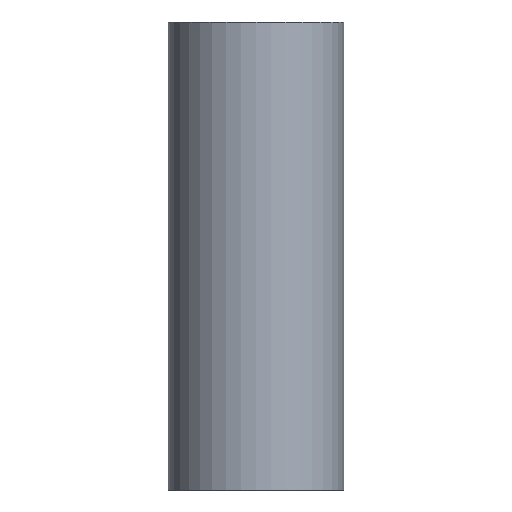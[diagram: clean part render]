
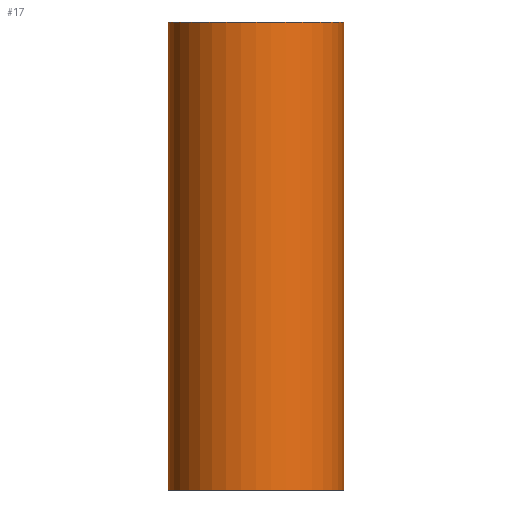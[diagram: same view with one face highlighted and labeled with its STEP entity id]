
A CAD part, front view. The second image highlights one B-rep face of the part: STEP entity #17.
In plain terms, the highlighted cylindrical face has radius 75 mm (diameter 150 mm), a full revolution.
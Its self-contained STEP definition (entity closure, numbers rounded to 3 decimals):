
#17 = ADVANCED_FACE('',(#18),#32,.T.);
#18 = FACE_BOUND('',#19,.F.);
#19 = EDGE_LOOP('',(#20,#50,#77,#78));
#20 = ORIENTED_EDGE('',*,*,#21,.T.);
#21 = EDGE_CURVE('',#22,#24,#26,.T.);
#22 = VERTEX_POINT('',#23);
#23 = CARTESIAN_POINT('',(75.,0.,0.));
#24 = VERTEX_POINT('',#25);
#25 = CARTESIAN_POINT('',(75.,0.,400.));
#26 = SEAM_CURVE('',#27,(#31,#43),.PCURVE_S1.);
#27 = LINE('',#28,#29);
#28 = CARTESIAN_POINT('',(75.,0.,0.));
#29 = VECTOR('',#30,1.);
#30 = DIRECTION('',(0.,0.,1.));
#31 = PCURVE('',#32,#37);
#32 = CYLINDRICAL_SURFACE('',#33,75.);
#33 = AXIS2_PLACEMENT_3D('',#34,#35,#36);
#34 = CARTESIAN_POINT('',(0.,0.,0.));
#35 = DIRECTION('',(-0.,-0.,-1.));
#36 = DIRECTION('',(1.,0.,-0.));
#37 = DEFINITIONAL_REPRESENTATION('',(#38),#42);
#38 = LINE('',#39,#40);
#39 = CARTESIAN_POINT('',(-0.,0.));
#40 = VECTOR('',#41,1.);
#41 = DIRECTION('',(-0.,-1.));
#42 = ( GEOMETRIC_REPRESENTATION_CONTEXT(2) 
PARAMETRIC_REPRESENTATION_CONTEXT() REPRESENTATION_CONTEXT('2D SPACE',''
  ) );
#43 = PCURVE('',#32,#44);
#44 = DEFINITIONAL_REPRESENTATION('',(#45),#49);
#45 = LINE('',#46,#47);
#46 = CARTESIAN_POINT('',(-6.283,0.));
#47 = VECTOR('',#48,1.);
#48 = DIRECTION('',(-0.,-1.));
#49 = ( GEOMETRIC_REPRESENTATION_CONTEXT(2) 
PARAMETRIC_REPRESENTATION_CONTEXT() REPRESENTATION_CONTEXT('2D SPACE',''
  ) );
#50 = ORIENTED_EDGE('',*,*,#51,.T.);
#51 = EDGE_CURVE('',#24,#24,#52,.T.);
#52 = SURFACE_CURVE('',#53,(#58,#65),.PCURVE_S1.);
#53 = CIRCLE('',#54,75.);
#54 = AXIS2_PLACEMENT_3D('',#55,#56,#57);
#55 = CARTESIAN_POINT('',(0.,0.,400.));
#56 = DIRECTION('',(0.,0.,1.));
#57 = DIRECTION('',(1.,0.,-0.));
#58 = PCURVE('',#32,#59);
#59 = DEFINITIONAL_REPRESENTATION('',(#60),#64);
#60 = LINE('',#61,#62);
#61 = CARTESIAN_POINT('',(-0.,-400.));
#62 = VECTOR('',#63,1.);
#63 = DIRECTION('',(-1.,0.));
#64 = ( GEOMETRIC_REPRESENTATION_CONTEXT(2) 
PARAMETRIC_REPRESENTATION_CONTEXT() REPRESENTATION_CONTEXT('2D SPACE',''
  ) );
#65 = PCURVE('',#66,#71);
#66 = PLANE('',#67);
#67 = AXIS2_PLACEMENT_3D('',#68,#69,#70);
#68 = CARTESIAN_POINT('',(0.,0.,400.));
#69 = DIRECTION('',(0.,0.,1.));
#70 = DIRECTION('',(1.,0.,-0.));
#71 = DEFINITIONAL_REPRESENTATION('',(#72),#76);
#72 = CIRCLE('',#73,75.);
#73 = AXIS2_PLACEMENT_2D('',#74,#75);
#74 = CARTESIAN_POINT('',(0.,0.));
#75 = DIRECTION('',(1.,0.));
#76 = ( GEOMETRIC_REPRESENTATION_CONTEXT(2) 
PARAMETRIC_REPRESENTATION_CONTEXT() REPRESENTATION_CONTEXT('2D SPACE',''
  ) );
#77 = ORIENTED_EDGE('',*,*,#21,.F.);
#78 = ORIENTED_EDGE('',*,*,#79,.F.);
#79 = EDGE_CURVE('',#22,#22,#80,.T.);
#80 = SURFACE_CURVE('',#81,(#86,#93),.PCURVE_S1.);
#81 = CIRCLE('',#82,75.);
#82 = AXIS2_PLACEMENT_3D('',#83,#84,#85);
#83 = CARTESIAN_POINT('',(0.,0.,0.));
#84 = DIRECTION('',(0.,0.,1.));
#85 = DIRECTION('',(1.,0.,-0.));
#86 = PCURVE('',#32,#87);
#87 = DEFINITIONAL_REPRESENTATION('',(#88),#92);
#88 = LINE('',#89,#90);
#89 = CARTESIAN_POINT('',(-0.,0.));
#90 = VECTOR('',#91,1.);
#91 = DIRECTION('',(-1.,0.));
#92 = ( GEOMETRIC_REPRESENTATION_CONTEXT(2) 
PARAMETRIC_REPRESENTATION_CONTEXT() REPRESENTATION_CONTEXT('2D SPACE',''
  ) );
#93 = PCURVE('',#94,#99);
#94 = PLANE('',#95);
#95 = AXIS2_PLACEMENT_3D('',#96,#97,#98);
#96 = CARTESIAN_POINT('',(0.,0.,0.));
#97 = DIRECTION('',(0.,0.,1.));
#98 = DIRECTION('',(1.,0.,-0.));
#99 = DEFINITIONAL_REPRESENTATION('',(#100),#104);
#100 = CIRCLE('',#101,75.);
#101 = AXIS2_PLACEMENT_2D('',#102,#103);
#102 = CARTESIAN_POINT('',(0.,0.));
#103 = DIRECTION('',(1.,0.));
#104 = ( GEOMETRIC_REPRESENTATION_CONTEXT(2) 
PARAMETRIC_REPRESENTATION_CONTEXT() REPRESENTATION_CONTEXT('2D SPACE',''
  ) );
